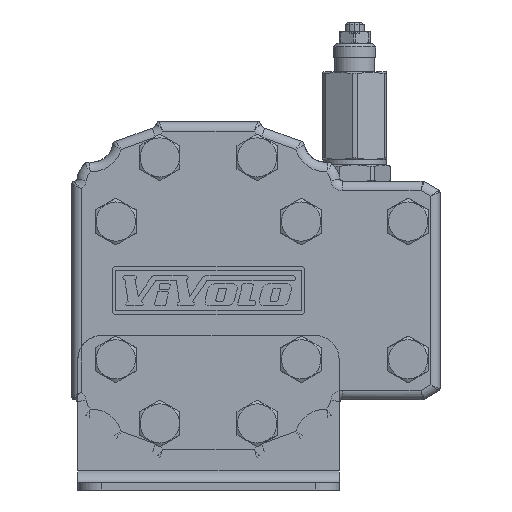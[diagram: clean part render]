
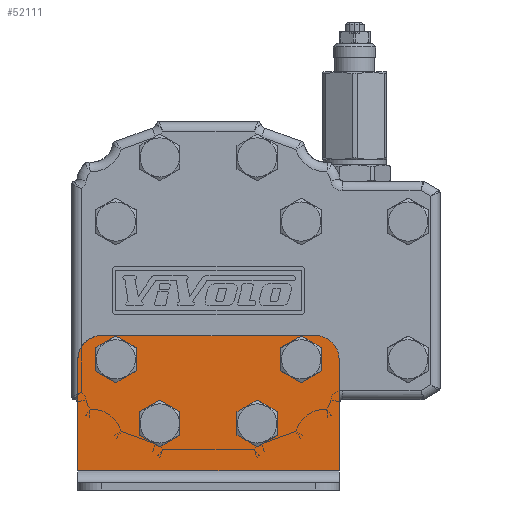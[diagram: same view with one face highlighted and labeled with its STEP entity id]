
A CAD part, front view. The second image highlights one B-rep face of the part: STEP entity #52111.
In plain terms, the highlighted planar face has unit normal (0, -1, 0).
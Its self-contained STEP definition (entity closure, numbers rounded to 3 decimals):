
#3004=CIRCLE('',#54645,8.);
#3005=CIRCLE('',#54647,8.);
#3006=CIRCLE('',#54649,8.);
#3007=CIRCLE('',#54651,8.);
#3035=CIRCLE('',#54734,10.);
#3036=CIRCLE('',#54735,10.);
#6384=ORIENTED_EDGE('',*,*,#15895,.T.);
#6385=ORIENTED_EDGE('',*,*,#15894,.T.);
#6386=ORIENTED_EDGE('',*,*,#15893,.T.);
#6387=ORIENTED_EDGE('',*,*,#15892,.T.);
#6388=ORIENTED_EDGE('',*,*,#16008,.T.);
#6389=ORIENTED_EDGE('',*,*,#16009,.T.);
#6390=ORIENTED_EDGE('',*,*,#16010,.T.);
#6391=ORIENTED_EDGE('',*,*,#16011,.T.);
#6392=ORIENTED_EDGE('',*,*,#16012,.F.);
#6393=ORIENTED_EDGE('',*,*,#16007,.F.);
#15892=EDGE_CURVE('',#20886,#20886,#3004,.T.);
#15893=EDGE_CURVE('',#20887,#20887,#3005,.T.);
#15894=EDGE_CURVE('',#20888,#20888,#3006,.T.);
#15895=EDGE_CURVE('',#20889,#20889,#3007,.T.);
#16007=EDGE_CURVE('',#20961,#20960,#24139,.T.);
#16008=EDGE_CURVE('',#20961,#20962,#24140,.T.);
#16009=EDGE_CURVE('',#20962,#20963,#3035,.T.);
#16010=EDGE_CURVE('',#20963,#20964,#24141,.T.);
#16011=EDGE_CURVE('',#20964,#20965,#3036,.T.);
#16012=EDGE_CURVE('',#20960,#20965,#24142,.T.);
#20886=VERTEX_POINT('',#75829);
#20887=VERTEX_POINT('',#75832);
#20888=VERTEX_POINT('',#75835);
#20889=VERTEX_POINT('',#75838);
#20960=VERTEX_POINT('',#76497);
#20961=VERTEX_POINT('',#76499);
#20962=VERTEX_POINT('',#76503);
#20963=VERTEX_POINT('',#76505);
#20964=VERTEX_POINT('',#76507);
#20965=VERTEX_POINT('',#76509);
#24139=LINE('',#76500,#26443);
#24140=LINE('',#76502,#26444);
#24141=LINE('',#76506,#26445);
#24142=LINE('',#76510,#26446);
#26443=VECTOR('',#59923,1000.);
#26444=VECTOR('',#59926,1000.);
#26445=VECTOR('',#59929,1000.);
#26446=VECTOR('',#59932,1000.);
#28686=EDGE_LOOP('',(#6384));
#28687=EDGE_LOOP('',(#6385));
#28688=EDGE_LOOP('',(#6386));
#28689=EDGE_LOOP('',(#6387));
#28690=EDGE_LOOP('',(#6388,#6389,#6390,#6391,#6392,#6393));
#31507=FACE_BOUND('',#28686,.T.);
#31508=FACE_BOUND('',#28687,.T.);
#31509=FACE_BOUND('',#28688,.T.);
#31510=FACE_BOUND('',#28689,.T.);
#31511=FACE_BOUND('',#28690,.T.);
#34099=PLANE('',#54733);
#52111=ADVANCED_FACE('',(#31507,#31508,#31509,#31510,#31511),#34099,.T.);
#54645=AXIS2_PLACEMENT_3D('',#75828,#59681,#59682);
#54647=AXIS2_PLACEMENT_3D('',#75831,#59685,#59686);
#54649=AXIS2_PLACEMENT_3D('',#75834,#59689,#59690);
#54651=AXIS2_PLACEMENT_3D('',#75837,#59693,#59694);
#54733=AXIS2_PLACEMENT_3D('',#76501,#59924,#59925);
#54734=AXIS2_PLACEMENT_3D('',#76504,#59927,#59928);
#54735=AXIS2_PLACEMENT_3D('',#76508,#59930,#59931);
#59681=DIRECTION('',(0.,1.,0.));
#59682=DIRECTION('',(0.,0.,1.));
#59685=DIRECTION('',(0.,1.,0.));
#59686=DIRECTION('',(0.,0.,1.));
#59689=DIRECTION('',(0.,1.,0.));
#59690=DIRECTION('',(0.,0.,1.));
#59693=DIRECTION('',(0.,1.,0.));
#59694=DIRECTION('',(0.,0.,1.));
#59923=DIRECTION('',(-1.,0.,0.));
#59924=DIRECTION('',(0.,-1.,0.));
#59925=DIRECTION('',(0.,0.,-1.));
#59926=DIRECTION('',(0.,0.,1.));
#59927=DIRECTION('',(0.,-1.,0.));
#59928=DIRECTION('',(0.,0.,-1.));
#59929=DIRECTION('',(-1.,0.,0.));
#59930=DIRECTION('',(0.,-1.,0.));
#59931=DIRECTION('',(0.,0.,-1.));
#59932=DIRECTION('',(0.,0.,1.));
#75828=CARTESIAN_POINT('',(20.5,-63.,-56.));
#75829=CARTESIAN_POINT('',(20.5,-63.,-48.));
#75831=CARTESIAN_POINT('',(-20.5,-63.,-56.));
#75832=CARTESIAN_POINT('',(-20.5,-63.,-48.));
#75834=CARTESIAN_POINT('',(-39.,-63.,-29.));
#75835=CARTESIAN_POINT('',(-39.,-63.,-21.));
#75837=CARTESIAN_POINT('',(39.,-63.,-29.));
#75838=CARTESIAN_POINT('',(39.,-63.,-21.));
#76497=CARTESIAN_POINT('',(-55.,-63.,-76.));
#76499=CARTESIAN_POINT('',(55.,-63.,-76.));
#76500=CARTESIAN_POINT('',(55.,-63.,-76.));
#76501=CARTESIAN_POINT('',(55.,-63.,-76.));
#76502=CARTESIAN_POINT('',(55.,-63.,-76.));
#76503=CARTESIAN_POINT('',(55.,-63.,-29.));
#76504=CARTESIAN_POINT('',(45.,-63.,-29.));
#76505=CARTESIAN_POINT('',(45.,-63.,-19.));
#76506=CARTESIAN_POINT('',(55.,-63.,-19.));
#76507=CARTESIAN_POINT('',(-45.,-63.,-19.));
#76508=CARTESIAN_POINT('',(-45.,-63.,-29.));
#76509=CARTESIAN_POINT('',(-55.,-63.,-29.));
#76510=CARTESIAN_POINT('',(-55.,-63.,-76.));
